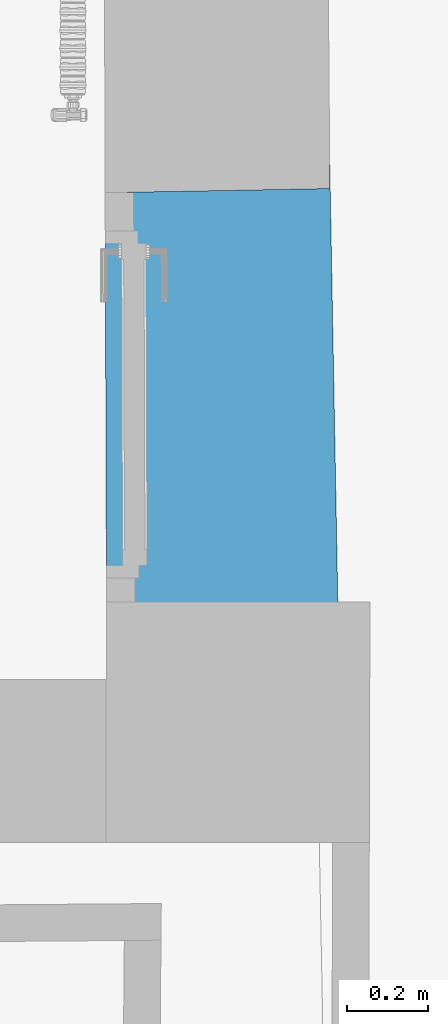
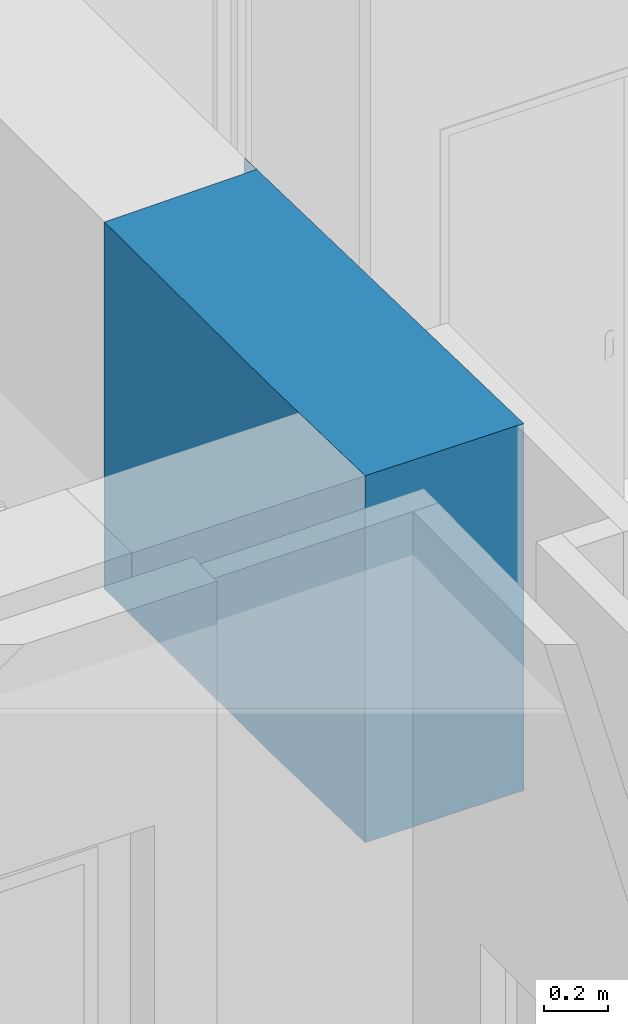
# One storey, part 39 of 66: 1 wall.
"""IFC2X3 building model written with IfcOpenShell, lengths in centimetres."""

from ifc_helpers import new_model, entity, si_unit, converted_unit, direction, frame, origin, origin_with_axes, place, context, subcontext, project, spatial, faceted_brep, material, layer, layer_set, layer_usage, type_object, element, save


model = new_model("IFC2X3")

# Units and contexts
model_context = context("Model", 3, precision=0.0001, world=origin(), true_north=direction((0.225632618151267, 0.974212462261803, 0.0)))
body_context = subcontext(model_context, "Body", "Model", "MODEL_VIEW")
ifc_project = project(units=[si_unit("LENGTHUNIT", "METRE", prefix="CENTI"), si_unit("AREAUNIT", "SQUARE_METRE", prefix="CENTI"), si_unit("VOLUMEUNIT", "CUBIC_METRE", prefix="CENTI"), converted_unit("PLANEANGLEUNIT", "DEGREE", entity("IfcRatioMeasure", 0.0174532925), si_unit("PLANEANGLEUNIT", "RADIAN"), dimensions=[0, 0, 0, 0, 0, 0, 0])], contexts=[model_context])

# Site, building, storey
site_placement = place(None, origin_with_axes())
site = spatial("IfcSite", under=ifc_project, at=site_placement, Name="Default Site", CompositionType="ELEMENT")
building_placement = place(site_placement, origin_with_axes())
building = spatial("IfcBuilding", under=site, at=building_placement, Name="Default Building", CompositionType="ELEMENT")
storey_placement = place(building_placement, frame((0.0, 0.0, 477.795358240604), z_axis=(0.0, 0.0, 1.0), x_axis=(1.0, 0.0, 0.0)))
storey = spatial("IfcBuildingStorey", under=building, at=storey_placement, Name="Niveau 1", CompositionType="ELEMENT", Elevation=477.795358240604)

# Wall
ifc_material = material(Name="<aucun>")
ifc_layer = layer(ifc_material, 54.0)
ifc_layer_set = layer_set([ifc_layer], Name="default")
ifc_layer_usage = layer_usage(ifc_layer_set, "AXIS2", "POSITIVE", -27.0)
wall_type = type_object("IfcWallType", Name="default 540", PredefinedType="NOTDEFINED", material=ifc_layer_set)
wall_placement = place(storey_placement, frame((267.23244305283, -661.818262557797, 237.012850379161), z_axis=(0.0, 0.0, 1.0), x_axis=(-0.0184119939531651, 0.999830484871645, 0.0)))
element("IfcWall", 1, at=wall_placement, inside=storey, type_object=wall_type, material=ifc_layer_usage, Name="Enveloppe 127392", context=body_context, shape_type="Brep", body=[
    faceted_brep([(0.926833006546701, 29.7748087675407, 1.70119487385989e-05), (9.5788847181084e-06, 29.7887938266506, 1.70119487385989e-05), (9.5788847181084e-06, 29.7887938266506, 139.102142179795), (0.926833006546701, 29.7748087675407, 139.102142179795), (9.31541572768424e-06, 29.7887763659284, 1.70119487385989e-05), (-8.26154585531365, 29.7887763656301, 1.70119487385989e-05), (-8.26154585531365, 29.7887763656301, 139.102142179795), (9.31541572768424e-06, 29.7887763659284, 139.102142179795), (101.673014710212, 28.2530649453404, 1.70119487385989e-05), (101.673090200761, 28.2579997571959, 1.10217841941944), (101.673090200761, 28.2579997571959, 139.102142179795), (101.673014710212, 28.2530649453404, 1.10217841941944), (101.673010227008, 28.2580011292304, 1.70119487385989e-05), (101.467649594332, 28.258001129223, 1.70119487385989e-05), (101.448334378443, 28.2580011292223, 1.70119487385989e-05), (101.448334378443, 28.2580011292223, 139.102142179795), (101.467697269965, 28.258001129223, 139.102142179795), (101.673057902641, 28.2580011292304, 139.102142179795), (101.673057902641, 28.2580011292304, 1.10217841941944), (101.448334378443, 28.2580132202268, 1.70119487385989e-05), (101.413815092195, 28.2585340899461, 1.70119487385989e-05), (101.413815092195, 28.2585340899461, 139.102142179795), (101.448334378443, 28.2580132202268, 139.102142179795), (-59.0966281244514, -24.6394269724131, 1.70119487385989e-05), (-59.1965986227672, -24.6372981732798, 1.70119487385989e-05), (-59.1965986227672, -24.6372981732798, 1.10217841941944), (-59.1965986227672, -24.6372981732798, 139.102142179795), (-59.0966281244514, -24.6394269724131, 139.102142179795), (109.114760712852, -27.0000062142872, 1.70119487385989e-05), (101.413857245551, -26.8815852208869, 1.70119487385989e-05), (101.413857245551, -26.8815852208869, 1.10217841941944), (109.114760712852, -27.0000062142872, 1.10217841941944), (101.413857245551, -26.8815852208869, 139.102142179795), (109.114760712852, -27.0000062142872, 139.102142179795), (96.2528501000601, 28.3364003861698, 1.70119487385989e-05), (0.926832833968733, 29.7747973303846, 1.70119487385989e-05), (0.926832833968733, 29.7747973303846, 139.102142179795), (96.2528501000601, 28.3364003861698, 139.102142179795), (101.413815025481, 28.258529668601, 1.70119487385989e-05), (96.2528501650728, 28.33640469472, 1.70119487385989e-05), (96.2528501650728, 28.33640469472, 139.102142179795), (101.413815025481, 28.258529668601, 139.102142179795), (-48.2615171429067, 29.7887812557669, 1.70119487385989e-05), (-58.0831189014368, 29.7887812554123, 1.70119487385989e-05), (-58.0831189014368, 29.7887812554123, 1.10217841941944), (-48.2615171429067, 29.7887812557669, 1.10217841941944), (-58.0831189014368, 29.7887760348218, 1.70119487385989e-05), (-58.6284417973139, 0.502675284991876, 1.70119487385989e-05), (-58.6284417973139, 0.502675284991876, 139.102142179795), (-58.0831189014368, 29.7887760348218, 139.102142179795), (-58.0831189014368, 29.7887760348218, 1.10217841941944), (-58.0831189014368, 29.7887812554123, 139.102142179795), (-48.2615171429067, 29.7887812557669, 139.102142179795), (-18.0761843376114, 29.7887866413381, 1.70119487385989e-05), (-48.2615171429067, 29.7887866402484, 1.70119487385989e-05), (-48.2615171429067, 29.7887866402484, 1.10217841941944), (-18.0761843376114, 29.7887866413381, 1.10217841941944), (-48.2615171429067, 29.7887866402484, 139.102142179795), (-18.0761843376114, 29.7887866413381, 139.102142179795), (-8.26154585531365, 29.788777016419, 139.102142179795), (-8.26154585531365, 29.788777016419, 1.70119487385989e-05), (-17.4844721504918, 29.7887770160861, 1.70119487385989e-05), (-18.0761843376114, 29.7887770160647, 1.70119487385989e-05), (-18.0761843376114, 29.7887770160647, 1.10217841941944), (-18.0761843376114, 29.7887770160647, 139.102142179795), (101.467685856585, 28.2573945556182, 1.70119487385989e-05), (101.673014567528, 28.2530581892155, 1.70119487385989e-05), (101.673014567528, 28.2530581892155, 1.10217841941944), (101.467685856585, 28.2573945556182, 1.10217841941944), (101.467685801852, 28.2573919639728, 1.70119487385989e-05), (101.467685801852, 28.2573919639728, 1.10217841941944), (101.413815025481, 28.258529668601, 1.10217841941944), (101.673014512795, 28.2530555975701, 1.10217841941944), (101.673014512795, 28.2530555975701, 139.102142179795), (-59.2469280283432, -27.0000025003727, 1.70119487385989e-05), (-59.1405753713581, -27.0000025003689, 1.70119487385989e-05), (-59.1405753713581, -27.0000025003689, 1.10217841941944), (-59.2469280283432, -27.0000025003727, 1.10217841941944), (-59.1965986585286, -24.6372998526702, 1.70119487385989e-05), (-59.2469107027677, -27.0000028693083, 1.70119487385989e-05), (-59.2469107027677, -27.0000028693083, 1.10217841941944), (-59.1965986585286, -24.6372998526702, 1.10217841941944), (-59.1405753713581, -27.0000025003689, 139.102142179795), (-59.2469280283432, -27.0000025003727, 139.102142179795), (-59.2469107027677, -27.0000028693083, 139.102142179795), (-59.1965986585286, -24.6372998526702, 139.102142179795), (-59.1405753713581, -27.0000056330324, 1.70119487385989e-05), (-48.8948025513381, -27.0000056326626, 1.70119487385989e-05), (-48.8948025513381, -27.0000056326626, 1.10217841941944), (-59.1405753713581, -27.0000056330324, 1.10217841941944), (-58.6397758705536, -0.105401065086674, 1.70119487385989e-05), (-59.0966125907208, -24.6394272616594, 1.70119487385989e-05), (-59.0966125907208, -24.6394272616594, 139.102142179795), (-58.6397758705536, -0.105401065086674, 139.102142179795), (-48.8948025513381, -27.0000056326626, 139.102142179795), (-59.1405753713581, -27.0000056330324, 139.102142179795), (-48.8948025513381, -26.9999901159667, 1.70119487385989e-05), (-0.130366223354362, -26.9999901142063, 1.70119487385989e-05), (-0.130366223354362, -26.9999901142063, 1.10217841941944), (-48.8948025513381, -26.9999901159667, 1.10217841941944), (-0.130366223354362, -26.9999901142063, 139.102142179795), (-48.8948025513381, -26.9999901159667, 139.102142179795), (-0.130366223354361, -27.0000039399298, 1.70119487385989e-05), (44.3448605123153, -27.0000039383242, 1.70119487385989e-05), (44.3448605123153, -27.0000039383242, 139.102142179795), (-0.130366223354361, -27.0000039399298, 139.102142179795), (-0.130366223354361, -27.0000039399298, 1.10217841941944), (44.3448605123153, -27.0000090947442, 1.70119487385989e-05), (109.114760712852, -27.0000090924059, 1.70119487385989e-05), (109.114760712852, -27.0000090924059, 1.10217841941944), (109.114760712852, -27.0000090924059, 139.102142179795), (44.3448605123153, -27.0000090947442, 139.102142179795), (0.82988190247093, 24.5670280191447, 1.70119487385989e-05), (-8.26015069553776, 24.7859053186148, 1.70119487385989e-05), (-8.26015069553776, 24.7859053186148, 139.102142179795), (0.82988190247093, 24.5670280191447, 139.102142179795), (101.448330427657, 28.2577986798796, 1.70119487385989e-05), (101.413862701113, 28.2585287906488, 1.70119487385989e-05), (101.467697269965, 28.2580143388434, 1.70119487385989e-05), (101.673057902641, 28.2580002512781, 1.70119487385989e-05), (101.673014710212, 28.2530649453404, 139.102142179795), (101.467697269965, 28.2580143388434, 139.102142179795), (101.413862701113, 28.2585287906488, 139.102142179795), (100.619369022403, -26.906968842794, 1.70119487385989e-05), (101.262844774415, 14.9376992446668, 1.70119487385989e-05), (101.413824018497, 14.9369935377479, 1.70119487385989e-05), (101.413857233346, -26.8815860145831, 1.70119487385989e-05), (101.413857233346, -26.8815860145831, 139.102142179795), (101.413824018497, 14.9369935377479, 139.102142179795), (101.262844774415, 14.9376992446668, 139.102142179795), (100.619369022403, -26.906968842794, 139.102142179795), (101.413857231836, 14.9369935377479, 1.70119487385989e-05), (101.413857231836, 14.9369935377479, 1.10217841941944), (101.413857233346, -26.8815860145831, 1.10217841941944), (101.413857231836, 14.9369935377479, 139.102142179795), (101.413853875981, 24.7566154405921, 1.70119487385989e-05), (101.38588159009, 22.9372114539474, 1.70119487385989e-05), (45.5534570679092, 23.1927648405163, 1.70119487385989e-05), (45.5605988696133, 23.4899440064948, 1.70119487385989e-05), (101.413853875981, 24.7566154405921, 139.102142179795), (45.5605988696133, 23.4899440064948, 139.102142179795), (45.5534570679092, 23.1927648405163, 139.102142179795), (48.0792877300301, 23.1811856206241, 139.102142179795), (101.38588159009, 22.9372114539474, 139.102142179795), (101.413853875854, 28.258529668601, 1.70119487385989e-05), (101.413853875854, 28.258529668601, 1.10217841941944), (101.413853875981, 24.7566154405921, 1.10217841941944), (101.413853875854, 28.258529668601, 139.102142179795), (101.413826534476, 22.9370783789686, 1.70119487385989e-05), (101.413826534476, 22.9370783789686, 139.102142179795), (101.41382653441, 24.7566154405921, 1.70119487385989e-05), (101.41382653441, 24.7566154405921, 1.10217841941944), (101.413826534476, 22.9370783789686, 1.10217841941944), (101.41382653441, 24.7566154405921, 139.102142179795), (101.360043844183, 21.2570282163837, 1.70119487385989e-05), (45.5485426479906, 22.1152829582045, 1.70119487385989e-05), (45.5485426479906, 22.1152829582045, 139.102142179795), (48.074252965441, 22.0764500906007, 139.102142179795), (0.797023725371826, 22.8034418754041, 1.70119487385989e-05), (0.797023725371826, 22.8034418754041, 139.102142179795), (-48.2604122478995, 25.7490985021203, 1.70119487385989e-05), (-48.2533986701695, 0.309471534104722, 1.70119487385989e-05), (-58.6284350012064, 0.50267515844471, 1.70119487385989e-05), (-58.6284350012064, 0.50267515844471, 139.102142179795), (-48.2533986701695, 0.309471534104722, 139.102142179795), (-48.2604122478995, 25.7490985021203, 139.102142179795), (0.361307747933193, -0.595765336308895, 1.70119487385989e-05), (0.361307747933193, -0.595765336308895, 139.102142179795), (-48.2531966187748, -0.355498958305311, 1.70119487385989e-05), (-48.2531966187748, -0.355498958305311, 139.102142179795), (45.5168300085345, 15.1928298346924, 1.70119487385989e-05), (45.5168300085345, 15.1928298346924, 139.102142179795), (48.0427087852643, 15.1812735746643, 139.102142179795), (101.413824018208, 22.9370783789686, 1.70119487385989e-05), (101.413824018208, 22.9370783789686, 1.10217841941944), (101.413824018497, 14.9369935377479, 1.10217841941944), (101.413824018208, 22.9370783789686, 139.102142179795), (45.36084350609, 15.1935562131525, 1.70119487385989e-05), (45.36084350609, 15.1935562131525, 139.102142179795), (101.360043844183, 21.2570282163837, 139.102142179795), (-58.6397577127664, -0.105401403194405, 1.70119487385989e-05), (-58.6397577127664, -0.105401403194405, 139.102142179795)], [[[0, 1, 2, 3]], [[4, 5, 6, 7]], [[8, 9, 10, 11]], [[12, 13, 14, 15, 16, 17, 18]], [[19, 20, 21, 22]], [[23, 24, 25, 26, 27]], [[28, 29, 30, 31]], [[31, 30, 32, 33]], [[34, 35, 36, 37]], [[38, 39, 40, 41]], [[42, 43, 44, 45]], [[46, 47, 48, 49, 50]], [[45, 44, 51, 52]], [[53, 54, 55, 56]], [[56, 55, 57, 58]], [[59, 60, 61, 62, 63, 64]], [[65, 66, 67, 68]], [[38, 69, 70, 71]], [[71, 72, 73, 41]], [[74, 75, 76, 77]], [[78, 79, 80, 81]], [[77, 76, 82, 83]], [[81, 80, 84, 85]], [[86, 87, 88, 89]], [[90, 91, 92, 93]], [[89, 88, 94, 95]], [[96, 97, 98, 99]], [[99, 98, 100, 101]], [[102, 103, 104, 105, 106]], [[107, 108, 109, 110, 111]], [[4, 0, 112, 113, 60]], [[59, 114, 115, 3, 7]], [[65, 116, 117, 19, 118, 119]], [[120, 121, 22, 122, 22, 121]], [[78, 23, 86, 74]], [[83, 95, 27, 85]], [[28, 123, 124, 125, 126]], [[127, 128, 129, 130, 33]], [[126, 131, 132, 133]], [[133, 132, 134, 127]], [[38, 135, 136, 137, 138, 112, 0, 34]], [[139, 41, 37, 3, 115, 140, 141, 142, 143]], [[135, 144, 145, 146]], [[146, 145, 147, 139]], [[135, 148, 136]], [[139, 143, 149]], [[148, 150, 151, 152]], [[152, 151, 153, 149]], [[154, 155, 137, 136]], [[141, 156, 157, 142]], [[158, 112, 138, 137, 155]], [[156, 141, 140, 115, 159]], [[46, 42, 160, 161, 162]], [[163, 164, 165, 52, 49]], [[166, 161, 160, 113, 112, 158]], [[159, 115, 114, 165, 164, 167]], [[23, 90, 168, 96, 86]], [[95, 101, 169, 93, 27]], [[102, 96, 168, 161, 166]], [[167, 164, 169, 101, 105]], [[170, 155, 154, 124]], [[157, 156, 171, 172]], [[125, 124, 154, 136, 148]], [[125, 173, 174, 175]], [[175, 174, 176, 128]], [[113, 160, 42, 60]], [[59, 52, 165, 114]], [[177, 107, 102, 166, 158, 155, 170]], [[171, 156, 159, 167, 105, 111, 178]], [[162, 161, 168, 90]], [[93, 169, 164, 163]], [[107, 177, 170, 124, 123, 28]], [[130, 129, 172, 171, 178, 111, 33]], [[129, 128, 149, 143, 179]], [[172, 129, 179, 157]], [[157, 179, 143, 142]], [[162, 180, 181, 163]]]),
])

save(model, "model.ifc")
